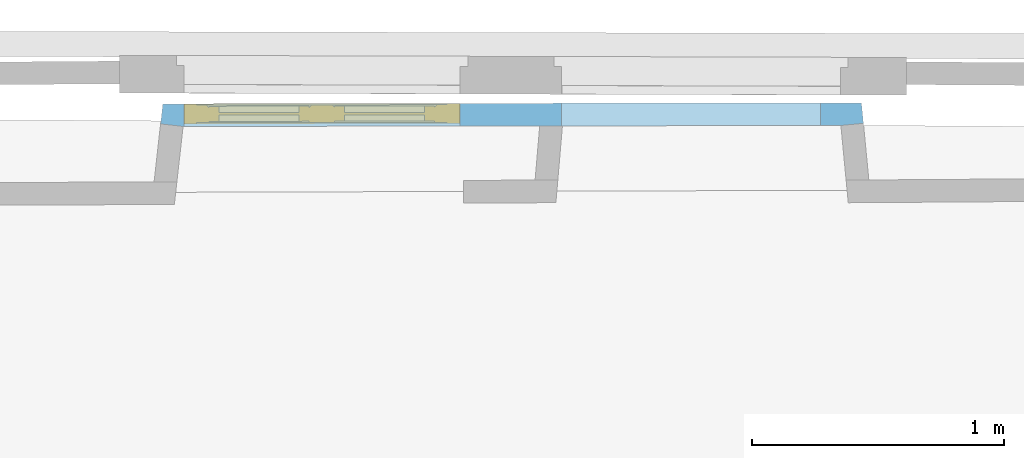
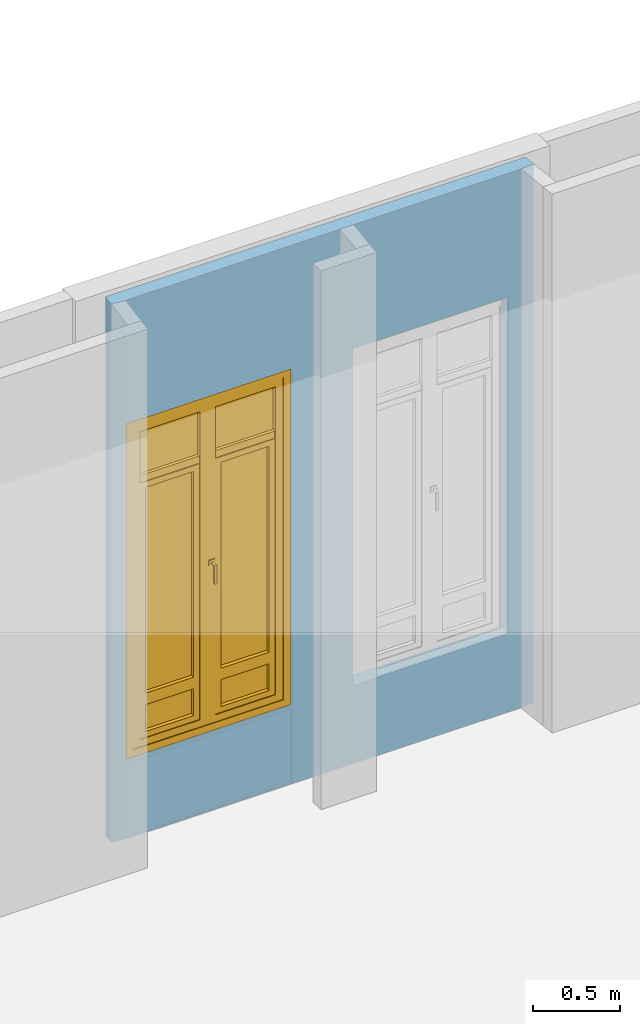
# One storey, part 47 of 66: 1 window, 3 openings, plus 1 element that does not belong to this part.
"""IFC2X3 building model written with IfcOpenShell, lengths in centimetres."""

from ifc_helpers import new_model, entity, si_unit, converted_unit, direction, frame, origin, origin_with_axes, place, context, subcontext, project, spatial, polyline, outline, extrude, faceted_brep, shape, source, transform, mapped, material, material_list, layer, layer_set, layer_usage, type_object, element, fill, save


model = new_model("IFC2X3")

# Units and contexts
model_context = context("Model", 3, precision=0.0001, world=origin(), true_north=direction((0.225632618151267, 0.974212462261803, 0.0)))
body_context = subcontext(model_context, "Body", "Model", "MODEL_VIEW")
footprint_context = subcontext(model_context, "FootPrint", "Model", "MODEL_VIEW")
profile_context = subcontext(model_context, "Profile", "Model", "MODEL_VIEW")
ifc_project = project(units=[si_unit("LENGTHUNIT", "METRE", prefix="CENTI"), si_unit("AREAUNIT", "SQUARE_METRE", prefix="CENTI"), si_unit("VOLUMEUNIT", "CUBIC_METRE", prefix="CENTI"), converted_unit("PLANEANGLEUNIT", "DEGREE", entity("IfcRatioMeasure", 0.0174532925), si_unit("PLANEANGLEUNIT", "RADIAN"), dimensions=[0, 0, 0, 0, 0, 0, 0])], contexts=[model_context])

# Site, building, storey
site_placement = place(None, origin_with_axes())
site = spatial("IfcSite", under=ifc_project, at=site_placement, Name="Default Site", CompositionType="ELEMENT")
building_placement = place(site_placement, origin_with_axes())
building = spatial("IfcBuilding", under=site, at=building_placement, Name="Default Building", CompositionType="ELEMENT")
storey_placement = place(building_placement, frame((0.0, 0.0, 477.795358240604), z_axis=(0.0, 0.0, 1.0), x_axis=(1.0, 0.0, 0.0)))
storey = spatial("IfcBuildingStorey", under=building, at=storey_placement, Name="Niveau 1", CompositionType="ELEMENT", Elevation=477.795358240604)

# Wall, openings, window
ifc_material_1 = material(Name="<aucun>")
ifc_layer = layer(ifc_material_1, 9.0)
ifc_layer_set = layer_set([ifc_layer], Name="default")
ifc_layer_usage = layer_usage(ifc_layer_set, "AXIS2", "POSITIVE", -4.5)
wall_type = type_object("IfcWallType", Name="default 90", PredefinedType="NOTDEFINED", material=ifc_layer_set)
wall_placement = place(storey_placement, frame((553.661144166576, 736.75930817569, 0.0128503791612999), z_axis=(0.0, 0.0, 1.0), x_axis=(0.999998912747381, 0.00147461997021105, 0.0)))
wall = element("IfcWallStandardCase", 1, at=wall_placement, inside=storey, type_object=wall_type, material=ifc_layer_usage, Name="Enveloppe 597463", context=body_context, shape_type="SweptSolid", body=[
    extrude(outline(polyline([(155.087994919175, 4.50000000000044), (5.47248589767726, 4.4999999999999), (4.56417112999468, -3.48246780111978), (13.5064654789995, -4.49999999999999), (155.087994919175, -4.49999999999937), (274.743839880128, -4.4931533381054), (283.631484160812, -3.6551375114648), (282.862536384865, 4.50000000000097), (155.087994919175, 4.50000000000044)])), origin_with_axes(), (0.0, 0.0, 1.0), 376.102165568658),
])
opening_1_placement = place(wall_placement, frame((13.802566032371, 1.13686837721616e-13, 0.0427702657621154), z_axis=(0.0, 0.0, 1.0), x_axis=(-1.0, -3.55097895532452e-15, 0.0)))
cartesian_point_1 = entity("IfcCartesianPoint", [0.0, 0.0, 52.5000000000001])
cartesian_point_2 = entity("IfcCartesianPoint", [-109.572289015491, -4.49999999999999])
element("IfcOpeningElement", 2, at=opening_1_placement, cuts=wall, Name="Baie 103161", ObjectType="Recess", shapes=[
    shape(body_context, "Body", "Brep", [faceted_brep([(-4.97626944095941e-06, 24.4999871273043, -1.72003466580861e-05), (-109.572296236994, 24.4999871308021, -1.72003466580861e-05), (-109.572296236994, 24.4999871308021, 52.4999923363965), (-4.97626944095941e-06, 24.4999871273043, 52.4999923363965), (-4.97693980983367e-06, 3.50000812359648, 52.4999923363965), (-4.97693980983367e-06, 3.50000812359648, -1.72003466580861e-05), (2.24506305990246e-05, 3.50000812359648, -1.72003466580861e-05), (-109.572268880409, 3.49998549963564, -1.72003466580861e-05), (-109.572296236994, 24.5000121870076, -1.72003466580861e-05), (-109.572296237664, 3.49998549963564, -1.72003466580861e-05), (-109.572296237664, 3.49998549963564, 52.4999923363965), (-109.572296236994, 24.5000121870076, 52.4999923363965), (-109.572268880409, 3.49998549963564, 52.4999923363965), (2.24506305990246e-05, 3.50000812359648, 52.4999923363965), (2.24506305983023e-05, 3.49998549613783, -1.72003466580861e-05), (2.24506305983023e-05, 3.49998549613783, 52.4999923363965)], [[[0, 1, 2, 3]], [[3, 4, 5, 0]], [[0, 6, 7, 8]], [[8, 9, 10, 11]], [[11, 12, 13, 3]], [[12, 7, 14, 15]]])]),
    shape(profile_context, "Profile", "GeometricCurveSet", [entity("IfcGeometricCurveSet", [entity("IfcPolyline", [cartesian_point_1, entity("IfcCartesianPoint", [0.0, 0.0, 8.88178419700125e-14]), entity("IfcCartesianPoint", [-109.572289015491, 8.88178419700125e-14, 8.88178419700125e-14]), entity("IfcCartesianPoint", [-109.572289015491, 8.88178419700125e-14, 52.5000000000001]), cartesian_point_1])])]),
    shape(footprint_context, "FootPrint", "GeometricCurveSet", [entity("IfcGeometricCurveSet", [entity("IfcPolyline", [cartesian_point_2, entity("IfcCartesianPoint", [0.0, -4.50000000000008]), entity("IfcCartesianPoint", [0.0, 4.49999999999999]), entity("IfcCartesianPoint", [-109.572289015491, 4.49999999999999]), cartesian_point_2])])]),
])
opening_2_placement = place(wall_placement, frame((13.802566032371, 1.13686837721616e-13, 54.8871496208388), z_axis=(0.0, 0.0, 1.0), x_axis=(-1.0, -3.55097895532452e-15, 0.0)))
cartesian_point_3 = entity("IfcCartesianPoint", [0.0, 0.0, 235.0])
cartesian_point_4 = entity("IfcCartesianPoint", [-109.572289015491, -4.49999999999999])
opening_2 = element("IfcOpeningElement", 3, at=opening_2_placement, cuts=wall, Name="4294966471_11", ObjectType="Opening", shapes=[
    shape(body_context, "Body", "SweptSolid", [extrude(outline(polyline([(0.0, 235.0), (0.0, 8.88178419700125e-14), (109.572289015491, 8.88178419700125e-14), (109.572289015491, 235.0), (0.0, 235.0)])), frame((0.0, -14.5, 0.0), z_axis=(0.0, 1.0, 0.0), x_axis=(-1.0, 0.0, 0.0)), (0.0, 0.0, 1.0), 29.0)]),
    shape(profile_context, "Profile", "GeometricCurveSet", [entity("IfcGeometricCurveSet", [entity("IfcPolyline", [cartesian_point_3, entity("IfcCartesianPoint", [0.0, 0.0, 8.88178419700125e-14]), entity("IfcCartesianPoint", [-109.572289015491, 8.88178419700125e-14, 8.88178419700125e-14]), entity("IfcCartesianPoint", [-109.572289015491, 8.88178419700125e-14, 235.0]), cartesian_point_3])])]),
    shape(footprint_context, "FootPrint", "GeometricCurveSet", [entity("IfcGeometricCurveSet", [entity("IfcPolyline", [cartesian_point_4, entity("IfcCartesianPoint", [0.0, -4.50000000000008]), entity("IfcCartesianPoint", [0.0, 4.49999999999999]), entity("IfcCartesianPoint", [-109.572289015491, 4.49999999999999]), cartesian_point_4])])]),
])
opening_3_placement = place(wall_placement, frame((163.673665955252, 6.82121026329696e-13, 54.5871496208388), z_axis=(0.0, 0.0, 1.0), x_axis=(-1.0, -3.39376964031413e-15, 0.0)))
cartesian_point_5 = entity("IfcCartesianPoint", [0.0, 0.0, 235.0])
cartesian_point_6 = entity("IfcCartesianPoint", [-102.866001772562, -4.49999999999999])
element("IfcOpeningElement", 4, at=opening_3_placement, cuts=wall, Name="4294966468_11", ObjectType="Opening", shapes=[
    shape(body_context, "Body", "SweptSolid", [extrude(outline(polyline([(0.0, 235.0), (0.0, 8.88178419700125e-14), (102.866001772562, 8.88178419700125e-14), (102.866001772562, 235.0), (0.0, 235.0)])), frame((0.0, -14.5, 0.0), z_axis=(0.0, 1.0, 0.0), x_axis=(-1.0, 0.0, 0.0)), (0.0, 0.0, 1.0), 29.0)]),
    shape(profile_context, "Profile", "GeometricCurveSet", [entity("IfcGeometricCurveSet", [entity("IfcPolyline", [cartesian_point_5, entity("IfcCartesianPoint", [0.0, 0.0, 8.88178419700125e-14]), entity("IfcCartesianPoint", [-102.866001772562, 8.88178419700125e-14, 8.88178419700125e-14]), entity("IfcCartesianPoint", [-102.866001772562, 8.88178419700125e-14, 235.0]), cartesian_point_5])])]),
    shape(footprint_context, "FootPrint", "GeometricCurveSet", [entity("IfcGeometricCurveSet", [entity("IfcPolyline", [cartesian_point_6, entity("IfcCartesianPoint", [0.0, -4.49999999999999]), entity("IfcCartesianPoint", [0.0, 4.49999999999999]), entity("IfcCartesianPoint", [-102.866001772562, 4.50000000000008]), cartesian_point_6])])]),
])
ifc_material_2 = material(Name="Transparent")
ifc_material_3 = material(Name="Blanc trafic")
ifc_material_4 = material(Name="Aluminium satiné")
ifc_material_5 = material(Name="Blanc trafic")
ifc_material_list = material_list([ifc_material_2, ifc_material_3, ifc_material_4, ifc_material_5])
window_style = type_object("IfcWindowStyle", Name="FN[R] 2VB[2V] MM", ConstructionType="NOTDEFINED", OperationType="NOTDEFINED", ParameterTakesPrecedence=False, Sizeable=False, material=ifc_material_list)
shared_shape = source(origin_with_axes(), body_context, "Body", "Brep", [
    faceted_brep([(-49.7861444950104, 229.999995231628, -3.99999991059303), (-49.7861444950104, 229.999995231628, 3.99999991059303), (-49.7861444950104, 5.00000007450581, 3.99999991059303), (-49.7861444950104, 5.00000007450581, -3.99999991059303), (-54.7861456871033, 234.999990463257, 3.99999991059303), (-54.7861456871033, -1.33226762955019e-13, 3.99999991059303), (-54.7861456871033, 234.999990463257, -3.99999991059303), (-54.7861456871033, -1.33226762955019e-13, -3.99999991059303), (49.7861444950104, 5.0000000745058, 3.99999991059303), (49.7861444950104, 5.0000000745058, -3.99999991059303), (54.7861456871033, -1.33226762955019e-13, 3.99999991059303), (49.7861444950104, 5.00000007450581, 3.99999991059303), (54.7861456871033, -1.33226762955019e-13, -3.99999991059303), (49.7861444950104, 5.00000007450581, -3.99999991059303), (49.7861444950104, 229.999995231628, 3.99999991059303), (49.7861444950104, 229.999995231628, -3.99999991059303), (54.7861456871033, 234.999990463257, 3.99999991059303), (54.7861456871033, 234.999990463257, -3.99999991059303)], [[[0, 1, 2, 3]], [[1, 4, 5, 2]], [[4, 6, 7, 5]], [[6, 0, 3, 7]], [[3, 2, 8, 9]], [[2, 5, 10, 11]], [[5, 7, 12, 10]], [[7, 3, 13, 12]], [[13, 11, 14, 15]], [[11, 10, 16, 14]], [[10, 12, 17, 16]], [[12, 13, 15, 17]], [[15, 14, 1, 0]], [[14, 16, 4, 1]], [[16, 17, 6, 4]], [[17, 15, 0, 6]]]),
    faceted_brep([(-45.7861453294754, 225.999999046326, -3.50000001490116), (-44.7861443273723, 225.0, -2.49999901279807), (-44.7861443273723, 10.0000001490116, -2.49999901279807), (-45.7861453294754, 9.00000035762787, -3.50000001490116), (-44.7861433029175, 225.0, -2.5000000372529), (-44.7861433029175, 225.0, 3.50000001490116), (-44.7861433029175, 10.0000001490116, 3.50000001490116), (-44.7861433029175, 10.0000001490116, -2.5000000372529), (-49.7861444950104, 229.999995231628, 3.50000001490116), (-49.7861444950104, 5.00000007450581, 3.50000001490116), (-49.7861444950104, 229.999995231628, -3.50000001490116), (-49.7861444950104, 5.00000007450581, -3.50000001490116), (-44.7861433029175, 10.0000002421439, -2.50000013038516), (-5.00000007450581, 10.0000002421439, -2.50000013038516), (-3.99999991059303, 9.00000035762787, -3.50000001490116), (-5.00000007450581, 10.0000001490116, 3.50000001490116), (-5.00000007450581, 10.0000001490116, -2.5000000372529), (5.55111512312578e-15, 5.00000007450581, 3.50000001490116), (5.55111512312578e-15, 5.00000007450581, -3.50000001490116), (-4.99999998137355, 10.0000001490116, -2.49999994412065), (-4.99999998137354, 225.0, -2.49999994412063), (-3.99999991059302, 225.999999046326, -3.50000001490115), (-5.00000007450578, 225.0, 3.50000001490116), (-5.00000007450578, 225.0, -2.5000000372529), (1.66533453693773e-14, 229.999995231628, 3.50000001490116), (-5.00000007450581, 225.0, 3.50000001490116), (1.66533452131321e-14, 229.999995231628, -3.50000001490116), (1.66533452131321e-14, 229.999995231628, 3.50000001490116), (-3.99999991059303, 225.999999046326, -3.50000001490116), (1.66533453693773e-14, 229.999995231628, -3.50000001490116), (-5.00000007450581, 224.999999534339, -2.50000050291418), (-44.7861433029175, 224.999999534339, -2.50000050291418), (-5.00000007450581, 225.0, -2.5000000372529)], [[[0, 1, 2, 3]], [[4, 5, 6, 7]], [[5, 8, 9, 6]], [[8, 10, 11, 9]], [[10, 0, 3, 11]], [[3, 12, 13, 14]], [[7, 6, 15, 16]], [[6, 9, 17, 15]], [[9, 11, 18, 17]], [[11, 3, 14, 18]], [[14, 19, 20, 21]], [[16, 15, 22, 23]], [[15, 17, 24, 25]], [[17, 18, 26, 27]], [[18, 14, 28, 29]], [[28, 30, 31, 0]], [[32, 25, 5, 4]], [[25, 24, 8, 5]], [[24, 29, 10, 8]], [[29, 28, 0, 10]]]),
    faceted_brep([(-5.00000007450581, 225.0, -0.499999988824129), (-5.00000007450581, 193.499994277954, -0.499999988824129), (-44.7861433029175, 193.499994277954, -0.499999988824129), (-44.7861433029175, 225.0, -0.499999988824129), (-44.7861433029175, 225.0, 0.499999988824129), (-44.7861433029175, 193.499994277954, 0.499999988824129), (-5.00000007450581, 193.499994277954, 0.499999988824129), (-5.00000007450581, 225.0, 0.499999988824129)], [[[0, 1, 2, 3]], [[4, 5, 6, 7]], [[3, 2, 5, 4]], [[2, 1, 6, 5]], [[1, 0, 7, 6]], [[0, 3, 4, 7]]]),
    faceted_brep([(-5.00000007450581, 188.499999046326, 2.5000000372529), (-5.00000007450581, 188.499999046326, -2.5000000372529), (-5.00000007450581, 193.499994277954, -2.5000000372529), (-5.00000007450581, 193.499994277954, 2.5000000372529), (-44.7861433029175, 193.499994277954, 2.5000000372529), (-44.7861433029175, 193.499994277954, -2.5000000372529), (-44.7861433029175, 188.499999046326, -2.5000000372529), (-44.7861433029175, 188.499999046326, 2.5000000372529)], [[[0, 1, 2, 3]], [[4, 5, 6, 7]], [[3, 2, 5, 4]], [[2, 1, 6, 5]], [[1, 0, 7, 6]], [[0, 3, 4, 7]]]),
    faceted_brep([(-40.7861441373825, 184.500002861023, -2.99999993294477), (-40.7861441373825, 184.500002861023, 2.99999993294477), (-40.7861441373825, 40.7750010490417, 2.99999993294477), (-40.7861441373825, 40.7750010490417, -2.99999993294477), (-44.7861433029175, 188.499999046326, 2.99999993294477), (-44.7861433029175, 36.7749989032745, 2.99999993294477), (-44.7861433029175, 188.499999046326, -2.99999993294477), (-44.7861433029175, 36.7749989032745, -2.99999993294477), (-9.00000035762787, 40.7750010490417, 2.99999993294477), (-9.00000035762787, 40.7750010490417, -2.99999993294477), (-5.00000007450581, 36.7749989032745, 2.99999993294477), (-5.00000007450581, 36.7749989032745, -2.99999993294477), (-9.00000035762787, 184.500002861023, 2.99999993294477), (-9.00000035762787, 184.500002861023, -2.99999993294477), (-5.00000007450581, 188.499999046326, 2.99999993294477), (-5.0000000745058, 188.499999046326, -2.99999993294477), (-5.0000000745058, 188.499999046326, 2.99999993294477), (-5.00000007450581, 188.499999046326, -2.99999993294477)], [[[0, 1, 2, 3]], [[1, 4, 5, 2]], [[4, 6, 7, 5]], [[6, 0, 3, 7]], [[3, 2, 8, 9]], [[2, 5, 10, 8]], [[5, 7, 11, 10]], [[7, 3, 9, 11]], [[9, 8, 12, 13]], [[8, 10, 14, 12]], [[10, 11, 15, 16]], [[11, 9, 13, 17]], [[13, 12, 1, 0]], [[12, 14, 4, 1]], [[14, 17, 6, 4]], [[17, 13, 0, 6]]]),
    faceted_brep([(-9.00000035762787, 184.500002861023, -0.499999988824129), (-9.00000035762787, 40.7750010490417, -0.499999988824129), (-40.7861441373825, 40.7750010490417, -0.499999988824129), (-40.7861441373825, 184.500002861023, -0.499999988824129), (-40.7861441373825, 184.500002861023, 0.499999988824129), (-40.7861441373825, 40.7750010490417, 0.499999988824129), (-9.00000035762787, 40.7750010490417, 0.499999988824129), (-9.00000035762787, 184.500002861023, 0.499999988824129), (-9.00000035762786, 184.500002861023, -0.499999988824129), (-9.00000035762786, 184.500002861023, 0.499999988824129)], [[[0, 1, 2, 3]], [[4, 5, 6, 7]], [[3, 2, 5, 4]], [[2, 1, 6, 5]], [[1, 8, 9, 6]], [[0, 3, 4, 7]]]),
    faceted_brep([(-40.7861441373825, 32.7749997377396, -2.99999993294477), (-40.7861441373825, 32.7749997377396, 2.99999993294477), (-40.7861441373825, 14.0000000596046, 2.99999993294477), (-40.7861441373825, 14.0000000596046, -2.99999993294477), (-44.7861433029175, 36.7749989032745, 2.99999993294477), (-44.7861433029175, 10.0000001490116, 2.99999993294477), (-44.7861433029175, 36.7749989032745, -2.99999993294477), (-44.7861433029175, 10.0000001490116, -2.99999993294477), (-9.00000035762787, 14.0000000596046, 2.99999993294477), (-9.00000035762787, 14.0000000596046, -2.99999993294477), (-5.00000007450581, 10.0000001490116, 2.99999993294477), (-5.00000007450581, 10.0000001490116, -2.99999993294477), (-9.00000035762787, 32.7749997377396, 2.99999993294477), (-9.00000035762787, 32.7749997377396, -2.99999993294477), (-5.00000007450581, 36.7749989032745, 2.99999993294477), (-5.00000007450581, 36.7749989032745, -2.99999993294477)], [[[0, 1, 2, 3]], [[1, 4, 5, 2]], [[4, 6, 7, 5]], [[6, 0, 3, 7]], [[3, 2, 8, 9]], [[2, 5, 10, 8]], [[5, 7, 11, 10]], [[7, 3, 9, 11]], [[9, 8, 12, 13]], [[8, 10, 14, 12]], [[10, 11, 15, 14]], [[11, 9, 13, 15]], [[13, 12, 1, 0]], [[12, 14, 4, 1]], [[14, 15, 6, 4]], [[15, 13, 0, 6]]]),
    faceted_brep([(-9.00000035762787, 32.7749997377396, -0.499999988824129), (-9.00000035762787, 14.0000000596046, -0.499999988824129), (-40.7861441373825, 14.0000000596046, -0.499999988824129), (-40.7861441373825, 32.7749997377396, -0.499999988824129), (-40.7861441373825, 32.7749997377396, 0.499999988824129), (-40.7861441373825, 14.0000000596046, 0.499999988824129), (-9.00000035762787, 14.0000000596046, 0.499999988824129), (-9.00000035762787, 32.7749997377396, 0.499999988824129)], [[[0, 1, 2, 3]], [[4, 5, 6, 7]], [[3, 2, 5, 4]], [[2, 1, 6, 5]], [[1, 0, 7, 6]], [[0, 3, 4, 7]]]),
    faceted_brep([(3.99999991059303, 225.999999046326, -3.50000001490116), (4.99999998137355, 225.0, -2.49999994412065), (4.99999998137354, 10.0000001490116, -2.49999994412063), (3.99999991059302, 9.00000035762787, -3.50000001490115), (5.00000007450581, 225.0, -2.5000000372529), (5.00000007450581, 225.0, 3.50000001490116), (5.00000007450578, 10.0000001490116, 3.50000001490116), (5.00000007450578, 10.0000001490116, -2.5000000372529), (1.66533453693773e-14, 229.999995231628, 3.50000001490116), (5.55111512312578e-15, 5.00000007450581, 3.50000001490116), (5.00000007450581, 10.0000001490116, 3.50000001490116), (1.66533453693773e-14, 229.999995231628, -3.50000001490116), (5.55111527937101e-15, 5.00000007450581, -3.50000001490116), (5.55111527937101e-15, 5.00000007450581, 3.50000001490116), (3.99999991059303, 9.00000035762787, -3.50000001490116), (5.55111512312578e-15, 5.00000007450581, -3.50000001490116), (5.00000007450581, 10.0000002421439, -2.50000013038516), (44.7861433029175, 10.0000002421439, -2.50000013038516), (45.7861453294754, 9.00000035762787, -3.50000001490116), (5.00000007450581, 10.0000001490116, -2.5000000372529), (44.7861433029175, 10.0000001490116, 3.50000001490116), (44.7861433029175, 10.0000001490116, -2.5000000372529), (49.7861444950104, 5.00000007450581, 3.50000001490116), (49.7861444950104, 5.00000007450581, -3.50000001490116), (44.7861443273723, 10.0000001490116, -2.49999901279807), (44.7861443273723, 225.0, -2.49999901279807), (45.7861453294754, 225.999999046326, -3.50000001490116), (44.7861433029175, 225.0, 3.50000001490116), (44.7861433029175, 225.0, -2.5000000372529), (49.7861444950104, 229.999995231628, 3.50000001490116), (49.7861444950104, 229.999995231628, -3.50000001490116), (44.7861433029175, 224.999999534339, -2.50000050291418), (5.00000007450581, 224.999999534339, -2.50000050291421), (3.99999991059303, 225.999999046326, -3.50000001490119)], [[[0, 1, 2, 3]], [[4, 5, 6, 7]], [[5, 8, 9, 10]], [[8, 11, 12, 13]], [[11, 0, 14, 15]], [[14, 16, 17, 18]], [[19, 10, 20, 21]], [[10, 9, 22, 20]], [[9, 15, 23, 22]], [[15, 14, 18, 23]], [[18, 24, 25, 26]], [[21, 20, 27, 28]], [[20, 22, 29, 27]], [[22, 23, 30, 29]], [[23, 18, 26, 30]], [[26, 31, 32, 33]], [[28, 27, 5, 4]], [[27, 29, 8, 5]], [[29, 30, 11, 8]], [[30, 26, 0, 11]]]),
    faceted_brep([(4.50000017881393, 119.500005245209, 3.50000001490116), (4.50000017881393, 115.499997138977, 3.50000001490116), (0.499999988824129, 115.499997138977, 3.50000001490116), (0.499999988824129, 119.500005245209, 3.50000001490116), (0.499999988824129, 119.500005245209, 4.30000014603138), (0.499999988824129, 115.499997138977, 4.30000014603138), (4.50000017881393, 115.499997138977, 4.30000014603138), (4.50000017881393, 119.500005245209, 4.30000014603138)], [[[0, 1, 2, 3]], [[4, 5, 6, 7]], [[3, 2, 5, 4]], [[2, 1, 6, 5]], [[1, 0, 7, 6]], [[0, 3, 4, 7]]]),
    faceted_brep([(3.24999988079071, 117.999994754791, 4.30000014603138), (3.24999988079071, 116.999995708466, 4.30000014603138), (1.75000000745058, 116.999995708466, 4.30000014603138), (1.75000000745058, 117.999994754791, 4.30000014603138), (1.75000000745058, 117.999994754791, 8.29999968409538), (1.75000000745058, 116.999995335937, 7.30000026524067), (3.24999988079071, 116.999995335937, 7.30000026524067), (3.24999988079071, 117.999994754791, 8.29999968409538), (1.75000000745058, 116.999995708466, 7.29999989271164), (3.24999988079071, 116.999995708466, 7.29999989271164)], [[[0, 1, 2, 3]], [[4, 5, 6, 7]], [[3, 2, 8, 4]], [[2, 1, 9, 8]], [[1, 0, 7, 9]], [[0, 3, 4, 7]]]),
    faceted_brep([(3.24999988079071, 117.999994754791, 8.29999968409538), (3.24999988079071, 116.999995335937, 7.30000026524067), (1.75000000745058, 116.999995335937, 7.30000026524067), (1.75000000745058, 117.999994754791, 8.29999968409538), (1.75000000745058, 104.999995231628, 8.29999968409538), (1.75000000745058, 104.999995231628, 7.29999989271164), (3.24999988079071, 104.999995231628, 7.29999989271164), (3.24999988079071, 104.999995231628, 8.29999968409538), (1.75000000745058, 116.999995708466, 7.29999989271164), (3.24999988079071, 116.999995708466, 7.29999989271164)], [[[0, 1, 2, 3]], [[4, 5, 6, 7]], [[3, 8, 5, 4]], [[8, 9, 6, 5]], [[9, 0, 7, 6]], [[0, 3, 4, 7]]]),
    faceted_brep([(44.7861433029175, 225.0, -0.499999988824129), (44.7861433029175, 193.499994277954, -0.499999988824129), (5.00000007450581, 193.499994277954, -0.499999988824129), (5.00000007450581, 225.0, -0.499999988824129), (5.00000007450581, 225.0, 0.499999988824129), (5.00000007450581, 193.499994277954, 0.499999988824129), (44.7861433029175, 193.499994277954, 0.499999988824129), (44.7861433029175, 225.0, 0.499999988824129)], [[[0, 1, 2, 3]], [[4, 5, 6, 7]], [[3, 2, 5, 4]], [[2, 1, 6, 5]], [[1, 0, 7, 6]], [[0, 3, 4, 7]]]),
    faceted_brep([(44.7861433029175, 188.499999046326, 2.5000000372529), (44.7861433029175, 188.499999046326, -2.5000000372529), (44.7861433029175, 193.499994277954, -2.5000000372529), (44.7861433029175, 193.499994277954, 2.5000000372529), (5.00000007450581, 193.499994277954, 2.5000000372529), (5.00000007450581, 193.499994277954, -2.5000000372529), (5.00000007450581, 188.499999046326, -2.5000000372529), (5.00000007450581, 188.499999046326, 2.5000000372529)], [[[0, 1, 2, 3]], [[4, 5, 6, 7]], [[3, 2, 5, 4]], [[2, 1, 6, 5]], [[1, 0, 7, 6]], [[0, 3, 4, 7]]]),
    faceted_brep([(9.00000035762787, 184.500002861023, -2.99999993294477), (9.00000035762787, 184.500002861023, 2.99999993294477), (9.00000035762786, 40.7750010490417, 2.99999993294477), (9.00000035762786, 40.7750010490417, -2.99999993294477), (5.00000007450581, 188.499999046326, 2.99999993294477), (5.00000007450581, 36.7749989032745, 2.99999993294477), (9.00000035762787, 40.7750010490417, 2.99999993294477), (5.00000007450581, 188.499999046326, -2.99999993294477), (5.0000000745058, 36.7749989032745, -2.99999993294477), (5.0000000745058, 36.7749989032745, 2.99999993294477), (9.00000035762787, 40.7750010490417, -2.99999993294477), (5.00000007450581, 36.7749989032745, -2.99999993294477), (40.7861441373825, 40.7750010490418, 2.99999993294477), (40.7861441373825, 40.7750010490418, -2.99999993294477), (44.7861433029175, 36.7749989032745, 2.99999993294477), (40.7861441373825, 40.7750010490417, 2.99999993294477), (44.7861433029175, 36.7749989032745, -2.99999993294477), (40.7861441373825, 40.7750010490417, -2.99999993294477), (40.7861441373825, 184.500002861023, 2.99999993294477), (40.7861441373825, 184.500002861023, -2.99999993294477), (44.7861433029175, 188.499999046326, 2.99999993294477), (44.7861433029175, 188.499999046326, -2.99999993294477)], [[[0, 1, 2, 3]], [[1, 4, 5, 6]], [[4, 7, 8, 9]], [[7, 0, 10, 11]], [[10, 6, 12, 13]], [[6, 5, 14, 15]], [[5, 11, 16, 14]], [[11, 10, 17, 16]], [[17, 15, 18, 19]], [[15, 14, 20, 18]], [[14, 16, 21, 20]], [[16, 17, 19, 21]], [[19, 18, 1, 0]], [[18, 20, 4, 1]], [[20, 21, 7, 4]], [[21, 19, 0, 7]]]),
    faceted_brep([(40.7861441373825, 184.500002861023, -0.499999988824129), (40.7861441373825, 40.7750010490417, -0.499999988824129), (9.00000035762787, 40.7750010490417, -0.499999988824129), (9.00000035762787, 184.500002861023, -0.499999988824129), (9.00000035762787, 184.500002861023, 0.499999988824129), (9.00000035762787, 40.7750010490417, 0.499999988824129), (40.7861441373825, 40.7750010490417, 0.499999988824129), (40.7861441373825, 184.500002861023, 0.499999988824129), (9.00000035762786, 40.7750010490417, -0.499999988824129), (9.00000035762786, 40.7750010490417, 0.499999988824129)], [[[0, 1, 2, 3]], [[4, 5, 6, 7]], [[3, 8, 9, 4]], [[2, 1, 6, 5]], [[1, 0, 7, 6]], [[0, 3, 4, 7]]]),
    faceted_brep([(9.00000035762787, 32.7749997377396, -2.99999993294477), (9.00000035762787, 32.7749997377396, 2.99999993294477), (9.00000035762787, 14.0000000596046, 2.99999993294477), (9.00000035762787, 14.0000000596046, -2.99999993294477), (5.00000007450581, 36.7749989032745, 2.99999993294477), (5.00000007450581, 10.0000001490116, 2.99999993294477), (5.00000007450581, 36.7749989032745, -2.99999993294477), (5.00000007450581, 10.0000001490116, -2.99999993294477), (40.7861441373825, 14.0000000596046, 2.99999993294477), (40.7861441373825, 14.0000000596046, -2.99999993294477), (44.7861433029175, 10.0000001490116, 2.99999993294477), (44.7861433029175, 10.0000001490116, -2.99999993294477), (40.7861441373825, 32.7749997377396, 2.99999993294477), (40.7861441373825, 32.7749997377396, -2.99999993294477), (44.7861433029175, 36.7749989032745, 2.99999993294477), (44.7861433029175, 36.7749989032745, -2.99999993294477)], [[[0, 1, 2, 3]], [[1, 4, 5, 2]], [[4, 6, 7, 5]], [[6, 0, 3, 7]], [[3, 2, 8, 9]], [[2, 5, 10, 8]], [[5, 7, 11, 10]], [[7, 3, 9, 11]], [[9, 8, 12, 13]], [[8, 10, 14, 12]], [[10, 11, 15, 14]], [[11, 9, 13, 15]], [[13, 12, 1, 0]], [[12, 14, 4, 1]], [[14, 15, 6, 4]], [[15, 13, 0, 6]]]),
    faceted_brep([(40.7861441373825, 32.7749997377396, -0.499999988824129), (40.7861441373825, 14.0000000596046, -0.499999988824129), (9.00000035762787, 14.0000000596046, -0.499999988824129), (9.00000035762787, 32.7749997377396, -0.499999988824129), (9.00000035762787, 32.7749997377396, 0.499999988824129), (9.00000035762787, 14.0000000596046, 0.499999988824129), (40.7861441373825, 14.0000000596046, 0.499999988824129), (40.7861441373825, 32.7749997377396, 0.499999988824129)], [[[0, 1, 2, 3]], [[4, 5, 6, 7]], [[3, 2, 5, 4]], [[2, 1, 6, 5]], [[1, 0, 7, 6]], [[0, 3, 4, 7]]]),
])
window_placement = place(opening_2_placement, frame((-109.572289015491, -4.5, 7.105427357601e-15), z_axis=(0.0, 0.0, 1.0), x_axis=(1.0, 0.0, 0.0)))
window = element("IfcWindow", 5, at=window_placement, inside=storey, type_object=window_style, material=ifc_material_list, Name="Fenêtre 103158", OverallHeight=235.0, OverallWidth=109.572289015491, context=body_context, shape_type="MappedRepresentation", body=[
    mapped(shared_shape, transform((54.7861445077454, 4.00000000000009, -8.88178419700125e-14), x_axis=(-1.0, 0.0, 0.0), y_axis=(0.0, 0.0, 1.0), z_axis=(0.0, 1.0, 0.0), scale=1.0, scale2=1.0, scale3=1.0, uniform=False)),
])
fill(opening_2, window)

save(model, "model.ifc")
